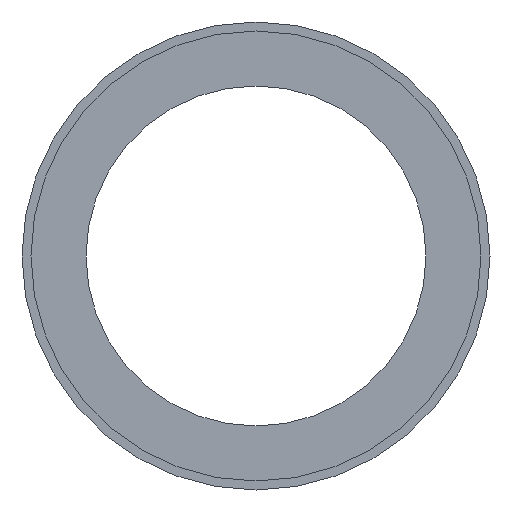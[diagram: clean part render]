
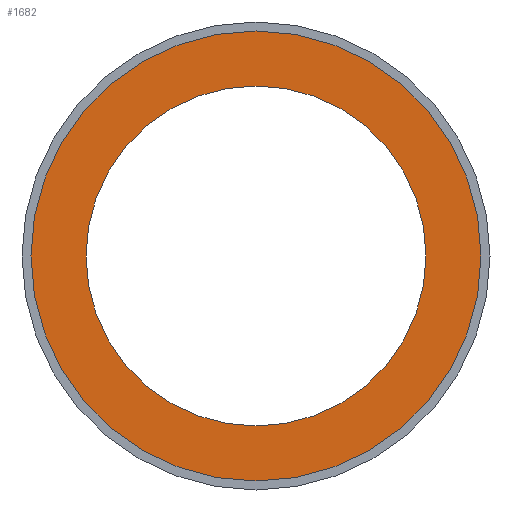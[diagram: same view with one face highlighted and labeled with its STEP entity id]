
A CAD part, front view. The second image highlights one B-rep face of the part: STEP entity #1682.
In plain terms, the highlighted planar face has unit normal (0, -1, 0).
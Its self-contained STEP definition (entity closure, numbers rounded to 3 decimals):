
#296 = CIRCLE ( 'NONE', #2846, 112.5 ) ;
#332 = CARTESIAN_POINT ( 'NONE',  ( 0., -32., 0. ) ) ;
#438 = ORIENTED_EDGE ( 'NONE', *, *, #2600, .T. ) ;
#446 = EDGE_CURVE ( 'NONE', #4643, #2186, #3102, .T. ) ;
#709 = DIRECTION ( 'NONE',  ( 0., 0., -1. ) ) ;
#855 = CARTESIAN_POINT ( 'NONE',  ( 0., -32., 85. ) ) ;
#917 = CARTESIAN_POINT ( 'NONE',  ( 0., -32., -85. ) ) ;
#1075 = CARTESIAN_POINT ( 'NONE',  ( 0., -32., 0. ) ) ;
#1144 = DIRECTION ( 'NONE',  ( 0., -1., 0. ) ) ;
#1316 = EDGE_LOOP ( 'NONE', ( #438, #3491 ) ) ;
#1511 = AXIS2_PLACEMENT_3D ( 'NONE', #1075, #2743, #3965 ) ;
#1645 = EDGE_LOOP ( 'NONE', ( #4352, #3434 ) ) ;
#1682 = ADVANCED_FACE ( 'NONE', ( #3414, #5352 ), #4570, .F. ) ;
#1775 = AXIS2_PLACEMENT_3D ( 'NONE', #855, #2092, #5371 ) ;
#2092 = DIRECTION ( 'NONE',  ( 0., 1., 0. ) ) ;
#2186 = VERTEX_POINT ( 'NONE', #917 ) ;
#2530 = EDGE_CURVE ( 'NONE', #2186, #4643, #4243, .T. ) ;
#2600 = EDGE_CURVE ( 'NONE', #4272, #3782, #3657, .T. ) ;
#2743 = DIRECTION ( 'NONE',  ( 0., -1., 0. ) ) ;
#2752 = CARTESIAN_POINT ( 'NONE',  ( 0., -32., 0. ) ) ;
#2846 = AXIS2_PLACEMENT_3D ( 'NONE', #4823, #4862, #709 ) ;
#3102 = CIRCLE ( 'NONE', #3202, 85. ) ;
#3124 = EDGE_CURVE ( 'NONE', #3782, #4272, #296, .T. ) ;
#3202 = AXIS2_PLACEMENT_3D ( 'NONE', #332, #3640, #3239 ) ;
#3239 = DIRECTION ( 'NONE',  ( 0., 0., -1. ) ) ;
#3414 = FACE_BOUND ( 'NONE', #1645, .T. ) ;
#3434 = ORIENTED_EDGE ( 'NONE', *, *, #446, .F. ) ;
#3491 = ORIENTED_EDGE ( 'NONE', *, *, #3124, .T. ) ;
#3640 = DIRECTION ( 'NONE',  ( 0., -1., 0. ) ) ;
#3657 = CIRCLE ( 'NONE', #1511, 112.5 ) ;
#3782 = VERTEX_POINT ( 'NONE', #4076 ) ;
#3965 = DIRECTION ( 'NONE',  ( 0., 0., -1. ) ) ;
#4021 = DIRECTION ( 'NONE',  ( 0., 0., -1. ) ) ;
#4076 = CARTESIAN_POINT ( 'NONE',  ( 0., -32., 112.5 ) ) ;
#4243 = CIRCLE ( 'NONE', #4764, 85. ) ;
#4272 = VERTEX_POINT ( 'NONE', #4731 ) ;
#4352 = ORIENTED_EDGE ( 'NONE', *, *, #2530, .F. ) ;
#4570 = PLANE ( 'NONE',  #1775 ) ;
#4643 = VERTEX_POINT ( 'NONE', #5128 ) ;
#4731 = CARTESIAN_POINT ( 'NONE',  ( 0., -32., -112.5 ) ) ;
#4764 = AXIS2_PLACEMENT_3D ( 'NONE', #2752, #1144, #4021 ) ;
#4823 = CARTESIAN_POINT ( 'NONE',  ( 0., -32., 0. ) ) ;
#4862 = DIRECTION ( 'NONE',  ( 0., -1., 0. ) ) ;
#5128 = CARTESIAN_POINT ( 'NONE',  ( 0., -32., 85. ) ) ;
#5352 = FACE_OUTER_BOUND ( 'NONE', #1316, .T. ) ;
#5371 = DIRECTION ( 'NONE',  ( 0., 0., 1. ) ) ;
